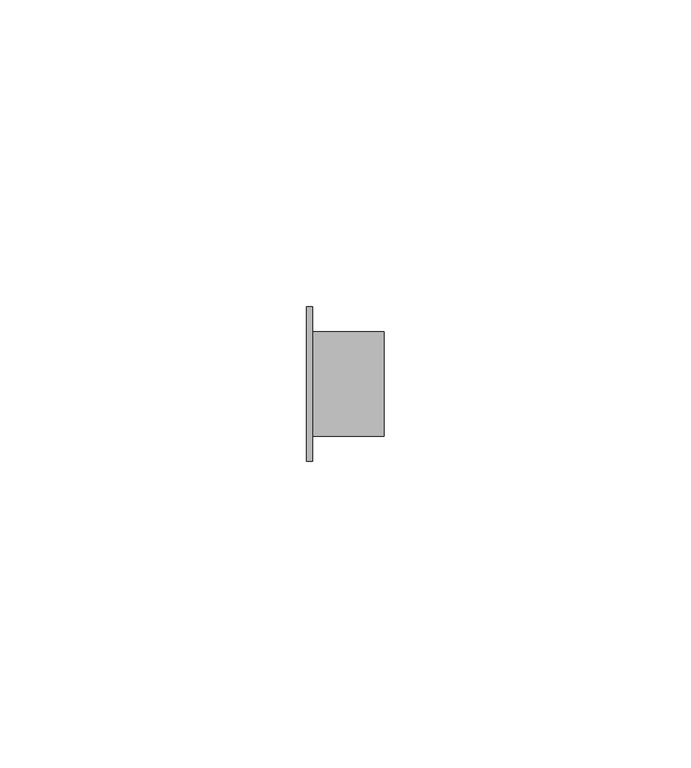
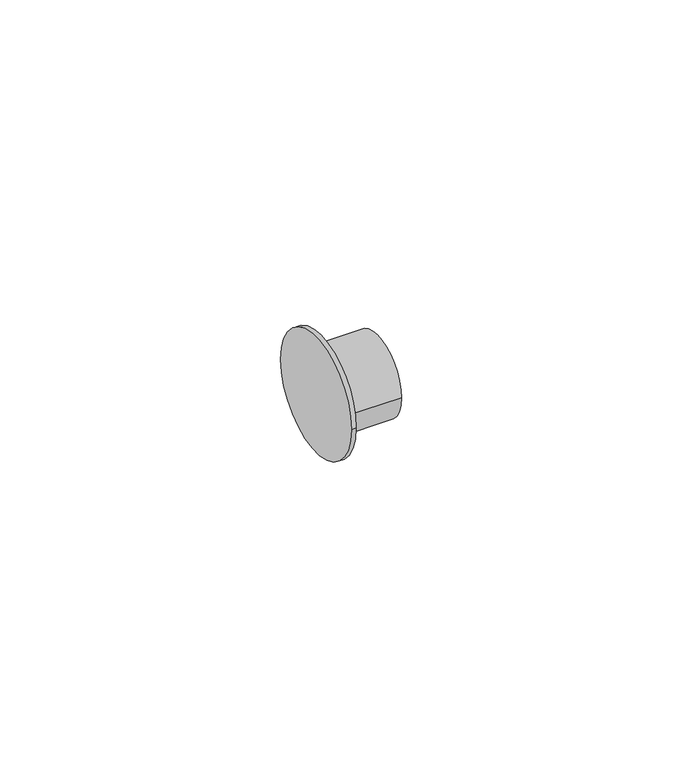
"""IFC4 building model written with IfcOpenShell, lengths in millimetres: pipe fitting geometry, Bucha de redução reta - Soldada - CU : Padrão."""

from ifc_helpers import new_model, si_unit, frame, origin, place, context, project, spatial, circle_curve, source, transform, mapped, element, save
from ifc_brep_helpers import plane_surface, cylinder_surface, advanced_brep


def pipe_fitting_bf9d9dba(model_context):
    return source(origin(), model_context, "Body", "AdvancedBrep", [
        advanced_brep(
        [(0.0, -12.6, 0.0), (0.0, 12.6, 0.0), (1.0, -12.6, 0.0), (1.0, 12.6, 0.0), (1.0, -8.4937, 0.0), (1.0, 8.4937, 0.0), (12.6589, -8.4937, 0.0), (12.6589, 8.4937, 0.0)],
        [
            (0, 1, circle_curve(frame((0.0, 0.0, 0.0), z_axis=(-1.0, 0.0, 0.0), x_axis=(0.0, 1.0, 0.0)), 12.6)),
            (1, 0, circle_curve(frame((0.0, 0.0, 0.0), z_axis=(-1.0, 0.0, 0.0), x_axis=(0.0, 1.0, 0.0)), 12.6)),
            (2, 3, circle_curve(frame((1.0, 0.0, 0.0), z_axis=(1.0, 0.0, 0.0), x_axis=(0.0, 1.0, 0.0)), 12.6)),
            (3, 2, circle_curve(frame((1.0, 0.0, 0.0), z_axis=(1.0, 0.0, 0.0), x_axis=(0.0, 1.0, 0.0)), 12.6)),
            (4, 5, circle_curve(frame((1.0, 0.0, 0.0), z_axis=(-1.0, 0.0, 0.0), x_axis=(0.0, 1.0, 0.0)), 8.4937)),
            (5, 4, circle_curve(frame((1.0, 0.0, 0.0), z_axis=(-1.0, 0.0, 0.0), x_axis=(0.0, 1.0, 0.0)), 8.4937)),
            (0, 2),
            (3, 1),
            (6, 7, circle_curve(frame((12.6589, 0.0, 0.0), z_axis=(1.0, 0.0, 0.0), x_axis=(0.0, 1.0, 0.0)), 8.4937)),
            (7, 6, circle_curve(frame((12.6589, 0.0, 0.0), z_axis=(1.0, 0.0, 0.0), x_axis=(0.0, 1.0, 0.0)), 8.4937)),
            (7, 5),
            (4, 6),
        ],
        [
            plane_surface(frame((0.0, 0.0, 0.0), z_axis=(-1.0, 0.0, 0.0), x_axis=(0.0, 0.0, 1.0))),
            plane_surface(frame((1.0, 0.0, 0.0), z_axis=(1.0, 0.0, 0.0), x_axis=(0.0, 0.0, 1.0))),
            cylinder_surface(frame((0.0, 0.0, 0.0), z_axis=(-1.0, 0.0, 0.0), x_axis=(0.0, 1.0, 0.0)), 12.6),
            plane_surface(frame((12.6589, 0.0, 0.0), z_axis=(1.0, 0.0, 0.0), x_axis=(0.0, 0.0, 1.0))),
            cylinder_surface(frame((1.0, 0.0, 0.0), z_axis=(-1.0, 0.0, 0.0), x_axis=(0.0, 1.0, 0.0)), 8.4937),
        ],
        [
            (0, [[1, 2]]),
            (1, [[3, 4], [5, 6]]),
            (2, [[-1, 7, -4, 8]]),
            (2, [[-2, -8, -3, -7]]),
            (3, [[9, 10]]),
            (4, [[-10, 11, -5, 12]]),
            (4, [[-9, -12, -6, -11]]),
        ],
    ),
    ])


if __name__ == "__main__":
    model = new_model("IFC4")
    model_context = context("Model", 3, world=origin())
    ifc_project = project(units=[si_unit("LENGTHUNIT", "METRE", prefix="MILLI")], contexts=[model_context])
    site = spatial("IfcSite", under=ifc_project)
    building = spatial("IfcBuilding", under=site)
    placement = place(None, origin())
    pipe_fitting_shape = pipe_fitting_bf9d9dba(model_context)
    element("IfcPipeFitting", 1, ObjectType="Bucha de redução reta - Soldada - CU : Padrão", at=placement, inside=building, context=model_context, shape_type="MappedRepresentation", body=[
        mapped(pipe_fitting_shape, transform((0.0, 0.0, 0.0), x_axis=(1.0, 0.0, 0.0), y_axis=(0.0, 1.0, 0.0), z_axis=(0.0, 0.0, 1.0))),
    ])
    save(model, "model.ifc")
